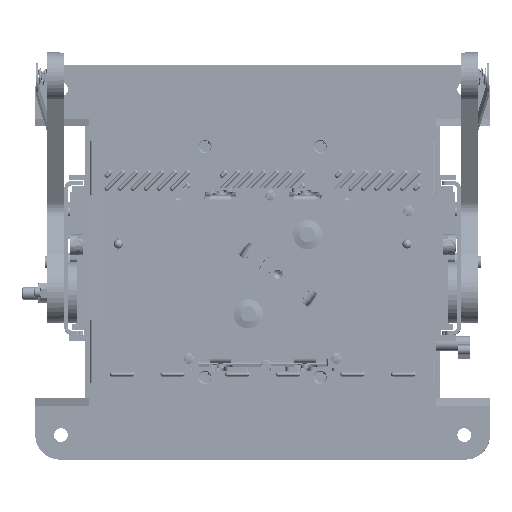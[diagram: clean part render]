
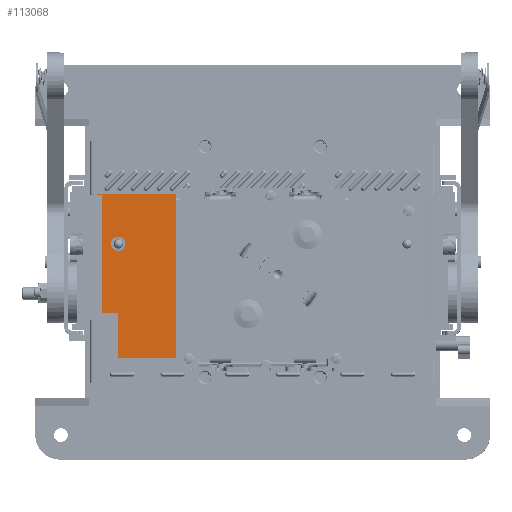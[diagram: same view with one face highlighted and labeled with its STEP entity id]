
A CAD part, top view. The second image highlights one B-rep face of the part: STEP entity #113068.
In plain terms, the highlighted planar face has unit normal (0, 0, 1).
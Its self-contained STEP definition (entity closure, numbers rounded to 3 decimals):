
#6165 = EDGE_CURVE ( 'NONE', #100311, #100313, #175335, .T. ) ;
#6243 = CARTESIAN_POINT ( 'NONE',  ( -110.841, 37.779, 47.586 ) ) ;
#6246 = CARTESIAN_POINT ( 'NONE',  ( -120.141, 37.779, 47.586 ) ) ;
#7554 = AXIS2_PLACEMENT_3D ( 'NONE', #23703, #23704, #23706 ) ;
#10037 = LINE ( 'NONE', #141735, #10040 ) ;
#10039 = LINE ( 'NONE', #141742, #10042 ) ;
#10040 = VECTOR ( 'NONE', #141739, 1000. ) ;
#10041 = LINE ( 'NONE', #141749, #10044 ) ;
#10042 = VECTOR ( 'NONE', #141746, 1000. ) ;
#10043 = LINE ( 'NONE', #141756, #10046 ) ;
#10044 = VECTOR ( 'NONE', #141754, 1000. ) ;
#10045 = LINE ( 'NONE', #141763, #10048 ) ;
#10046 = VECTOR ( 'NONE', #141761, 1000. ) ;
#10047 = LINE ( 'NONE', #141771, #10050 ) ;
#10048 = VECTOR ( 'NONE', #141768, 1000. ) ;
#10049 = LINE ( 'NONE', #141778, #10052 ) ;
#10050 = VECTOR ( 'NONE', #141775, 1000. ) ;
#10051 = LINE ( 'NONE', #141785, #10054 ) ;
#10052 = VECTOR ( 'NONE', #141782, 1000. ) ;
#10053 = LINE ( 'NONE', #141792, #10056 ) ;
#10054 = VECTOR ( 'NONE', #141789, 1000. ) ;
#10055 = LINE ( 'NONE', #141799, #160816 ) ;
#10056 = VECTOR ( 'NONE', #141796, 1000. ) ;
#10057 = LINE ( 'NONE', #141806, #117328 ) ;
#23703 = CARTESIAN_POINT ( 'NONE',  ( -115.491, 37.779, 47.586 ) ) ;
#23704 = DIRECTION ( 'NONE',  ( 0., 0., -1. ) ) ;
#23706 = DIRECTION ( 'NONE',  ( 1., 0., 0. ) ) ;
#57870 = FACE_BOUND ( 'NONE', #184423, .T. ) ;
#57888 = FACE_OUTER_BOUND ( 'NONE', #184405, .T. ) ;
#66126 = VERTEX_POINT ( 'NONE', #136372 ) ;
#66176 = VERTEX_POINT ( 'NONE', #136388 ) ;
#66294 = VERTEX_POINT ( 'NONE', #136426 ) ;
#66320 = VERTEX_POINT ( 'NONE', #136425 ) ;
#66332 = VERTEX_POINT ( 'NONE', #136438 ) ;
#66334 = VERTEX_POINT ( 'NONE', #136439 ) ;
#66560 = ORIENTED_EDGE ( 'NONE', *, *, #77523, .T. ) ;
#66566 = ORIENTED_EDGE ( 'NONE', *, *, #6165, .T. ) ;
#66570 = ORIENTED_EDGE ( 'NONE', *, *, #157797, .T. ) ;
#66576 = ORIENTED_EDGE ( 'NONE', *, *, #157792, .T. ) ;
#66582 = ORIENTED_EDGE ( 'NONE', *, *, #157786, .F. ) ;
#66588 = ORIENTED_EDGE ( 'NONE', *, *, #157778, .F. ) ;
#66594 = ORIENTED_EDGE ( 'NONE', *, *, #92657, .T. ) ;
#66598 = ORIENTED_EDGE ( 'NONE', *, *, #157774, .F. ) ;
#66604 = ORIENTED_EDGE ( 'NONE', *, *, #157769, .T. ) ;
#66610 = ORIENTED_EDGE ( 'NONE', *, *, #77535, .T. ) ;
#66616 = ORIENTED_EDGE ( 'NONE', *, *, #157764, .T. ) ;
#66622 = ORIENTED_EDGE ( 'NONE', *, *, #157759, .F. ) ;
#66626 = ORIENTED_EDGE ( 'NONE', *, *, #157753, .F. ) ;
#66632 = ORIENTED_EDGE ( 'NONE', *, *, #77539, .T. ) ;
#66638 = ORIENTED_EDGE ( 'NONE', *, *, #157749, .F. ) ;
#66644 = ORIENTED_EDGE ( 'NONE', *, *, #157741, .F. ) ;
#66966 = VERTEX_POINT ( 'NONE', #136642 ) ;
#67026 = VERTEX_POINT ( 'NONE', #136652 ) ;
#67034 = VERTEX_POINT ( 'NONE', #136664 ) ;
#67038 = VERTEX_POINT ( 'NONE', #136665 ) ;
#67040 = VERTEX_POINT ( 'NONE', #136666 ) ;
#67044 = VERTEX_POINT ( 'NONE', #136667 ) ;
#67050 = VERTEX_POINT ( 'NONE', #136669 ) ;
#67054 = VERTEX_POINT ( 'NONE', #136661 ) ;
#76591 = AXIS2_PLACEMENT_3D ( 'NONE', #113311, #113314, #113317 ) ;
#77523 = EDGE_CURVE ( 'NONE', #100313, #100311, #154790, .T. ) ;
#77535 = EDGE_CURVE ( 'NONE', #66332, #66334, #154931, .T. ) ;
#77539 = EDGE_CURVE ( 'NONE', #66320, #66294, #154960, .T. ) ;
#92657 = EDGE_CURVE ( 'NONE', #66126, #66176, #149357, .T. ) ;
#100277 = AXIS2_PLACEMENT_3D ( 'NONE', #102896, #102913, #102915 ) ;
#100311 = VERTEX_POINT ( 'NONE', #6243 ) ;
#100313 = VERTEX_POINT ( 'NONE', #6246 ) ;
#102896 = CARTESIAN_POINT ( 'NONE',  ( -103.111, -36.256, 47.586 ) ) ;
#102904 = PLANE ( 'NONE',  #100277 ) ;
#102913 = DIRECTION ( 'NONE',  ( 0., 0., 1. ) ) ;
#102915 = DIRECTION ( 'NONE',  ( 1., 0., 0. ) ) ;
#113068 = ADVANCED_FACE ( 'NONE', ( #57870, #57888 ), #102904, .T. ) ;
#113311 = CARTESIAN_POINT ( 'NONE',  ( -115.491, 37.779, 47.586 ) ) ;
#113314 = DIRECTION ( 'NONE',  ( 0., 0., -1. ) ) ;
#113317 = DIRECTION ( 'NONE',  ( 1., 0., 0. ) ) ;
#113395 = CARTESIAN_POINT ( 'NONE',  ( -129.241, 110.955, 47.586 ) ) ;
#113398 = CARTESIAN_POINT ( 'NONE',  ( -129.241, 110.955, 47.586 ) ) ;
#113400 = DIRECTION ( 'NONE',  ( 0., -1., 0. ) ) ;
#113420 = DIRECTION ( 'NONE',  ( 0., -1., 0. ) ) ;
#117328 = VECTOR ( 'NONE', #141811, 1000. ) ;
#136372 = CARTESIAN_POINT ( 'NONE',  ( -115.641, -36.256, 47.586 ) ) ;
#136388 = CARTESIAN_POINT ( 'NONE',  ( -77.741, -36.256, 47.586 ) ) ;
#136425 = CARTESIAN_POINT ( 'NONE',  ( -129.241, 38.179, 47.586 ) ) ;
#136426 = CARTESIAN_POINT ( 'NONE',  ( -129.241, 19.979, 47.586 ) ) ;
#136438 = CARTESIAN_POINT ( 'NONE',  ( -129.241, 70.279, 47.586 ) ) ;
#136439 = CARTESIAN_POINT ( 'NONE',  ( -129.241, 46.979, 47.586 ) ) ;
#136642 = CARTESIAN_POINT ( 'NONE',  ( -129.241, 11.179, 47.586 ) ) ;
#136652 = CARTESIAN_POINT ( 'NONE',  ( -77.741, 70.279, 47.586 ) ) ;
#136661 = CARTESIAN_POINT ( 'NONE',  ( -126.341, 38.179, 47.586 ) ) ;
#136664 = CARTESIAN_POINT ( 'NONE',  ( -126.341, 19.979, 47.586 ) ) ;
#136665 = CARTESIAN_POINT ( 'NONE',  ( -126.341, 11.179, 47.586 ) ) ;
#136666 = CARTESIAN_POINT ( 'NONE',  ( -115.641, -7.256, 47.586 ) ) ;
#136667 = CARTESIAN_POINT ( 'NONE',  ( -129.241, -7.256, 47.586 ) ) ;
#136669 = CARTESIAN_POINT ( 'NONE',  ( -126.341, 46.979, 47.586 ) ) ;
#141735 = CARTESIAN_POINT ( 'NONE',  ( -126.341, 11.179, 47.586 ) ) ;
#141739 = DIRECTION ( 'NONE',  ( 0., 1., 0. ) ) ;
#141742 = CARTESIAN_POINT ( 'NONE',  ( -129.241, 19.979, 47.586 ) ) ;
#141746 = DIRECTION ( 'NONE',  ( -1., 0., 0. ) ) ;
#141749 = CARTESIAN_POINT ( 'NONE',  ( -129.241, 38.179, 47.586 ) ) ;
#141754 = DIRECTION ( 'NONE',  ( 1., 0., 0. ) ) ;
#141756 = CARTESIAN_POINT ( 'NONE',  ( -126.341, 38.179, 47.586 ) ) ;
#141761 = DIRECTION ( 'NONE',  ( 0., 1., 0. ) ) ;
#141763 = CARTESIAN_POINT ( 'NONE',  ( -129.241, 46.979, 47.586 ) ) ;
#141768 = DIRECTION ( 'NONE',  ( 1., 0., 0. ) ) ;
#141771 = CARTESIAN_POINT ( 'NONE',  ( -103.111, 70.279, 47.586 ) ) ;
#141775 = DIRECTION ( 'NONE',  ( -1., 0., 0. ) ) ;
#141778 = CARTESIAN_POINT ( 'NONE',  ( -77.741, 74.244, 47.586 ) ) ;
#141782 = DIRECTION ( 'NONE',  ( 0., -1., 0. ) ) ;
#141785 = CARTESIAN_POINT ( 'NONE',  ( -115.641, -36.256, 47.586 ) ) ;
#141789 = DIRECTION ( 'NONE',  ( 0., 1., 0. ) ) ;
#141792 = CARTESIAN_POINT ( 'NONE',  ( -103.111, -7.256, 47.586 ) ) ;
#141796 = DIRECTION ( 'NONE',  ( -1., 0., 0. ) ) ;
#141799 = CARTESIAN_POINT ( 'NONE',  ( -129.241, 110.955, 47.586 ) ) ;
#141804 = DIRECTION ( 'NONE',  ( 0., -1., 0. ) ) ;
#141806 = CARTESIAN_POINT ( 'NONE',  ( -129.241, 11.179, 47.586 ) ) ;
#141811 = DIRECTION ( 'NONE',  ( -1., 0., 0. ) ) ;
#147349 = CARTESIAN_POINT ( 'NONE',  ( -103.111, -36.256, 47.586 ) ) ;
#147404 = DIRECTION ( 'NONE',  ( 1., 0., 0. ) ) ;
#149357 = LINE ( 'NONE', #147349, #149419 ) ;
#149419 = VECTOR ( 'NONE', #147404, 1000. ) ;
#154790 = CIRCLE ( 'NONE', #76591, 4.65 ) ;
#154931 = LINE ( 'NONE', #113395, #154952 ) ;
#154952 = VECTOR ( 'NONE', #113400, 1000. ) ;
#154960 = LINE ( 'NONE', #113398, #155015 ) ;
#155015 = VECTOR ( 'NONE', #113420, 1000. ) ;
#157741 = EDGE_CURVE ( 'NONE', #67038, #67034, #10037, .T. ) ;
#157749 = EDGE_CURVE ( 'NONE', #67034, #66294, #10039, .T. ) ;
#157753 = EDGE_CURVE ( 'NONE', #66320, #67054, #10041, .T. ) ;
#157759 = EDGE_CURVE ( 'NONE', #67054, #67050, #10043, .T. ) ;
#157764 = EDGE_CURVE ( 'NONE', #66334, #67050, #10045, .T. ) ;
#157769 = EDGE_CURVE ( 'NONE', #67026, #66332, #10047, .T. ) ;
#157774 = EDGE_CURVE ( 'NONE', #67026, #66176, #10049, .T. ) ;
#157778 = EDGE_CURVE ( 'NONE', #66126, #67040, #10051, .T. ) ;
#157786 = EDGE_CURVE ( 'NONE', #67040, #67044, #10053, .T. ) ;
#157792 = EDGE_CURVE ( 'NONE', #66966, #67044, #10055, .T. ) ;
#157797 = EDGE_CURVE ( 'NONE', #67038, #66966, #10057, .T. ) ;
#160816 = VECTOR ( 'NONE', #141804, 1000. ) ;
#175335 = CIRCLE ( 'NONE', #7554, 4.65 ) ;
#184405 = EDGE_LOOP ( 'NONE', ( #66570, #66576, #66582, #66588, #66594, #66598, #66604, #66610, #66616, #66622, #66626, #66632, #66638, #66644 ) ) ;
#184423 = EDGE_LOOP ( 'NONE', ( #66560, #66566 ) ) ;
